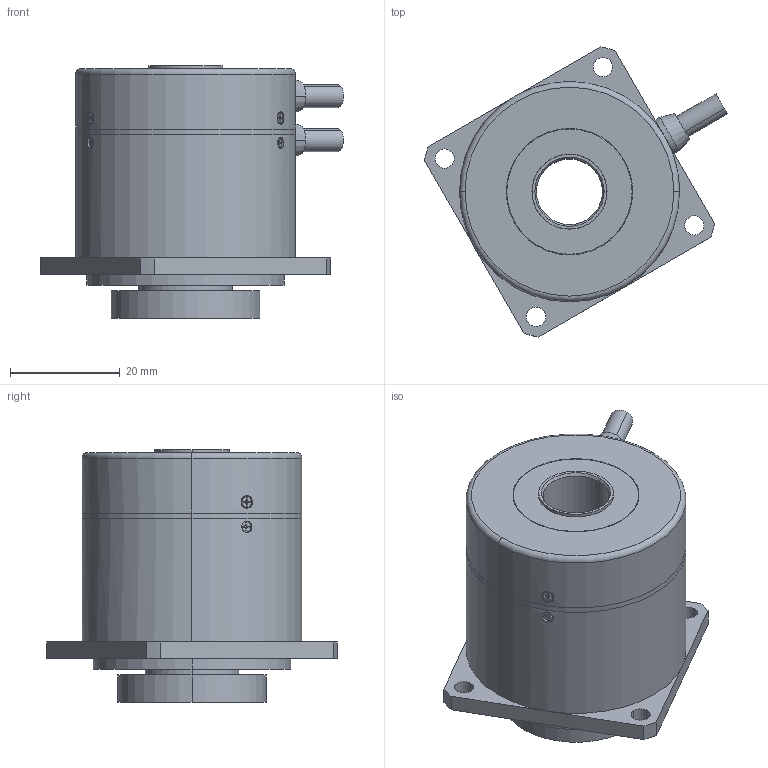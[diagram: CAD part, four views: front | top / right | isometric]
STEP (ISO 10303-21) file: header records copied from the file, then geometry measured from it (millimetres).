
FILE_DESCRIPTION(('STEP AP203'),'1');
FILE_NAME('//192.168.0.150/share/モータ部/0.一般/00.パスボックス/MDH40(12)_3D Model/MDH4012(12)_3Dモデル.step','2018-06-15T00:41:48',(' '),(' '),'Spatial InterOp 3D',' ',' ');
FILE_SCHEMA(('CONFIG_CONTROL_DESIGN'));
Length unit declared in the file: millimetre
Products named in the file (17): 1; 2; 3; 4; 5; 6; 7; 8; 9; 10; 11; 12; 13; 14; 15; 16; 17
Bounding box: 55.15 x 52.78 x 46 mm (x, y, z)
Volume: 19905 mm3; surface area: 26896.2 mm2
Topology: 17 solids, 17 shells, 533 faces, 1347 edges, 861 vertices
Faces by surface type: cylinder 220, plane 201, cone 105, torus 4, bspline 3
Entity records: 17427 total; most frequent: CARTESIAN_POINT 3454, DIRECTION 2927, ORIENTED_EDGE 2662, EDGE_CURVE 1331, AXIS2_PLACEMENT_3D 1108, VERTEX_POINT 861, LINE 711, VECTOR 711
